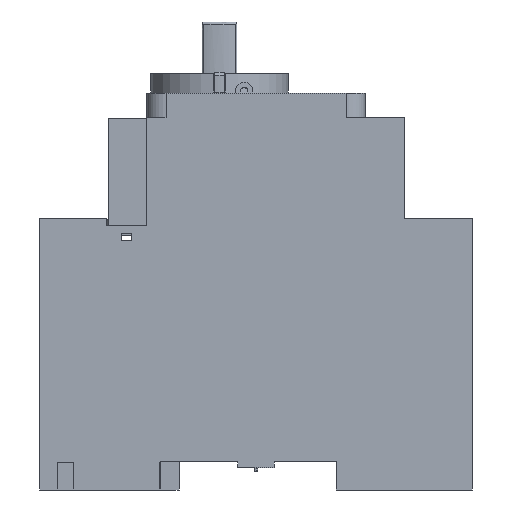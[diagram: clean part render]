
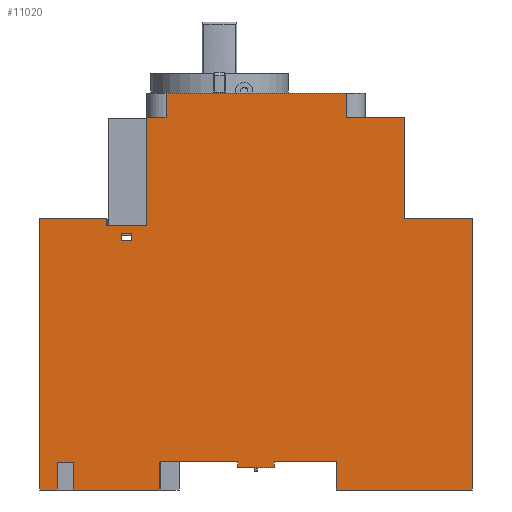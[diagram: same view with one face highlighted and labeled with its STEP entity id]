
A CAD part, left-side view. The second image highlights one B-rep face of the part: STEP entity #11020.
In plain terms, the highlighted planar face has unit normal (-1, 0, 0).
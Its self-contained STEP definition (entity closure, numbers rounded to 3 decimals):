
#1108=DIRECTION('',(0.,1.,0.));
#1109=VECTOR('',#1108,4.);
#1110=CARTESIAN_POINT('',(0.,63.,76.6));
#1111=LINE('',#1110,#1109);
#1325=DIRECTION('',(0.,0.,-1.));
#1326=VECTOR('',#1325,22.3);
#1327=CARTESIAN_POINT('',(0.,67.,76.6));
#1328=LINE('',#1327,#1326);
#1332=DIRECTION('',(0.,0.,-1.));
#1333=VECTOR('',#1332,5.);
#1334=CARTESIAN_POINT('',(0.,63.,81.6));
#1335=LINE('',#1334,#1333);
#1339=DIRECTION('',(0.,-1.,0.));
#1340=VECTOR('',#1339,37.);
#1341=CARTESIAN_POINT('',(0.,63.,81.6));
#1342=LINE('',#1341,#1340);
#1346=DIRECTION('',(0.,0.,1.));
#1347=VECTOR('',#1346,5.);
#1348=CARTESIAN_POINT('',(0.,26.,76.6));
#1349=LINE('',#1348,#1347);
#1353=DIRECTION('',(0.,0.,-1.));
#1354=VECTOR('',#1353,20.8);
#1355=CARTESIAN_POINT('',(0.,14.,76.6));
#1356=LINE('',#1355,#1354);
#1360=DIRECTION('',(0.,-1.,0.));
#1361=VECTOR('',#1360,14.);
#1362=CARTESIAN_POINT('',(0.,14.,55.8));
#1363=LINE('',#1362,#1361);
#1367=DIRECTION('',(0.,0.,-1.));
#1368=VECTOR('',#1367,55.8);
#1369=CARTESIAN_POINT('',(0.,0.,55.8));
#1370=LINE('',#1369,#1368);
#1374=DIRECTION('',(0.,1.,0.));
#1375=VECTOR('',#1374,28.);
#1376=CARTESIAN_POINT('',(0.,0.,0.));
#1377=LINE('',#1376,#1375);
#1381=DIRECTION('',(0.,0.,1.));
#1382=VECTOR('',#1381,5.8);
#1383=CARTESIAN_POINT('',(0.,28.,0.));
#1384=LINE('',#1383,#1382);
#1388=DIRECTION('',(0.,1.,0.));
#1389=VECTOR('',#1388,12.8);
#1390=CARTESIAN_POINT('',(0.,28.,5.8));
#1391=LINE('',#1390,#1389);
#1395=DIRECTION('',(0.,0.,-1.));
#1396=VECTOR('',#1395,1.2);
#1397=CARTESIAN_POINT('',(0.,40.8,5.8));
#1398=LINE('',#1397,#1396);
#1402=DIRECTION('',(0.,1.,0.));
#1403=VECTOR('',#1402,7.4);
#1404=CARTESIAN_POINT('',(0.,40.8,4.6));
#1405=LINE('',#1404,#1403);
#1409=DIRECTION('',(0.,0.,1.));
#1410=VECTOR('',#1409,1.2);
#1411=CARTESIAN_POINT('',(0.,48.2,4.6));
#1412=LINE('',#1411,#1410);
#1416=DIRECTION('',(0.,0.,1.));
#1417=VECTOR('',#1416,0.1);
#1418=CARTESIAN_POINT('',(0.,64.2,5.7));
#1419=LINE('',#1418,#1417);
#1423=DIRECTION('',(0.,1.,0.));
#1424=VECTOR('',#1423,0.199);
#1425=CARTESIAN_POINT('',(0.,64.2,5.7));
#1426=LINE('',#1425,#1424);
#1430=DIRECTION('',(0.,0.,1.));
#1431=VECTOR('',#1430,5.7);
#1432=CARTESIAN_POINT('',(0.,64.399,0.));
#1433=LINE('',#1432,#1431);
#1437=DIRECTION('',(0.,1.,0.));
#1438=VECTOR('',#1437,17.651);
#1439=CARTESIAN_POINT('',(0.,64.399,0.));
#1440=LINE('',#1439,#1438);
#1444=DIRECTION('',(0.,0.,1.));
#1445=VECTOR('',#1444,5.7);
#1446=CARTESIAN_POINT('',(0.,82.05,0.));
#1447=LINE('',#1446,#1445);
#1451=DIRECTION('',(0.,1.,0.));
#1452=VECTOR('',#1451,3.3);
#1453=CARTESIAN_POINT('',(0.,82.05,5.7));
#1454=LINE('',#1453,#1452);
#1458=DIRECTION('',(0.,0.,1.));
#1459=VECTOR('',#1458,5.7);
#1460=CARTESIAN_POINT('',(0.,85.35,0.));
#1461=LINE('',#1460,#1459);
#1465=DIRECTION('',(0.,1.,0.));
#1466=VECTOR('',#1465,3.65);
#1467=CARTESIAN_POINT('',(0.,85.35,0.));
#1468=LINE('',#1467,#1466);
#1472=DIRECTION('',(0.,0.,1.));
#1473=VECTOR('',#1472,55.8);
#1474=CARTESIAN_POINT('',(0.,89.,0.));
#1475=LINE('',#1474,#1473);
#1479=DIRECTION('',(0.,-1.,0.));
#1480=VECTOR('',#1479,13.8);
#1481=CARTESIAN_POINT('',(0.,89.,55.8));
#1482=LINE('',#1481,#1480);
#1486=DIRECTION('',(0.,0.,-1.));
#1487=VECTOR('',#1486,1.5);
#1488=CARTESIAN_POINT('',(0.,75.2,55.8));
#1489=LINE('',#1488,#1487);
#1493=DIRECTION('',(0.,1.,0.));
#1494=VECTOR('',#1493,8.2);
#1495=CARTESIAN_POINT('',(0.,67.,54.3));
#1496=LINE('',#1495,#1494);
#1500=DIRECTION('',(0.,-1.,0.));
#1501=VECTOR('',#1500,2.2);
#1502=CARTESIAN_POINT('',(0.,72.2,51.2));
#1503=LINE('',#1502,#1501);
#1507=DIRECTION('',(0.,0.,1.));
#1508=VECTOR('',#1507,1.6);
#1509=CARTESIAN_POINT('',(0.,70.,51.2));
#1510=LINE('',#1509,#1508);
#1514=DIRECTION('',(0.,1.,0.));
#1515=VECTOR('',#1514,2.2);
#1516=CARTESIAN_POINT('',(0.,70.,52.8));
#1517=LINE('',#1516,#1515);
#1521=DIRECTION('',(0.,0.,-1.));
#1522=VECTOR('',#1521,1.6);
#1523=CARTESIAN_POINT('',(0.,72.2,52.8));
#1524=LINE('',#1523,#1522);
#1602=DIRECTION('',(0.,1.,0.));
#1603=VECTOR('',#1602,12.);
#1604=CARTESIAN_POINT('',(0.,14.,76.6));
#1605=LINE('',#1604,#1603);
#4445=DIRECTION('',(0.,-1.,0.));
#4446=VECTOR('',#4445,16.);
#4447=CARTESIAN_POINT('',(0.,64.2,5.8));
#4448=LINE('',#4447,#4446);
#8222=CARTESIAN_POINT('',(0.,89.,0.));
#8223=CARTESIAN_POINT('',(0.,89.,55.8));
#8224=VERTEX_POINT('',#8222);
#8225=VERTEX_POINT('',#8223);
#8226=CARTESIAN_POINT('',(0.,14.,76.6));
#8227=CARTESIAN_POINT('',(0.,14.,55.8));
#8228=VERTEX_POINT('',#8226);
#8229=VERTEX_POINT('',#8227);
#8230=CARTESIAN_POINT('',(0.,0.,55.8));
#8231=VERTEX_POINT('',#8230);
#8232=CARTESIAN_POINT('',(0.,0.,0.));
#8233=VERTEX_POINT('',#8232);
#8298=CARTESIAN_POINT('',(0.,28.,0.));
#8299=CARTESIAN_POINT('',(0.,28.,5.8));
#8300=VERTEX_POINT('',#8298);
#8301=VERTEX_POINT('',#8299);
#8302=CARTESIAN_POINT('',(0.,40.8,5.8));
#8303=VERTEX_POINT('',#8302);
#8304=CARTESIAN_POINT('',(0.,40.8,4.6));
#8305=VERTEX_POINT('',#8304);
#8306=CARTESIAN_POINT('',(0.,48.2,4.6));
#8307=VERTEX_POINT('',#8306);
#8308=CARTESIAN_POINT('',(0.,48.2,5.8));
#8309=VERTEX_POINT('',#8308);
#8338=CARTESIAN_POINT('',(0.,63.,81.6));
#8339=CARTESIAN_POINT('',(0.,63.,76.6));
#8340=VERTEX_POINT('',#8338);
#8341=VERTEX_POINT('',#8339);
#8342=CARTESIAN_POINT('',(0.,26.,81.6));
#8343=VERTEX_POINT('',#8342);
#8362=CARTESIAN_POINT('',(0.,26.,76.6));
#8363=VERTEX_POINT('',#8362);
#8996=CARTESIAN_POINT('',(0.,64.2,5.8));
#8998=VERTEX_POINT('',#8996);
#9349=CARTESIAN_POINT('',(0.,64.2,5.7));
#9350=CARTESIAN_POINT('',(0.,64.399,5.7));
#9351=VERTEX_POINT('',#9349);
#9352=VERTEX_POINT('',#9350);
#9353=CARTESIAN_POINT('',(0.,82.05,5.7));
#9354=CARTESIAN_POINT('',(0.,85.35,5.7));
#9355=VERTEX_POINT('',#9353);
#9356=VERTEX_POINT('',#9354);
#9357=CARTESIAN_POINT('',(0.,64.399,0.));
#9358=VERTEX_POINT('',#9357);
#9359=CARTESIAN_POINT('',(0.,82.05,0.));
#9360=VERTEX_POINT('',#9359);
#9361=CARTESIAN_POINT('',(0.,85.35,0.));
#9362=VERTEX_POINT('',#9361);
#9631=CARTESIAN_POINT('',(0.,67.,76.6));
#9632=CARTESIAN_POINT('',(0.,67.,54.3));
#9633=VERTEX_POINT('',#9631);
#9634=VERTEX_POINT('',#9632);
#9635=CARTESIAN_POINT('',(0.,75.2,55.8));
#9636=CARTESIAN_POINT('',(0.,75.2,54.3));
#9637=VERTEX_POINT('',#9635);
#9638=VERTEX_POINT('',#9636);
#9667=CARTESIAN_POINT('',(0.,72.2,51.2));
#9668=CARTESIAN_POINT('',(0.,70.,51.2));
#9669=VERTEX_POINT('',#9667);
#9670=VERTEX_POINT('',#9668);
#9671=CARTESIAN_POINT('',(0.,70.,52.8));
#9672=VERTEX_POINT('',#9671);
#9673=CARTESIAN_POINT('',(0.,72.2,52.8));
#9674=VERTEX_POINT('',#9673);
#10954=CARTESIAN_POINT('',(0.,0.,0.));
#10955=DIRECTION('',(1.,0.,0.));
#10956=DIRECTION('',(0.,0.,-1.));
#10957=AXIS2_PLACEMENT_3D('',#10954,#10955,#10956);
#10958=PLANE('',#10957);
#10959=ORIENTED_EDGE('',*,*,#10809,.F.);
#10960=ORIENTED_EDGE('',*,*,#10764,.F.);
#10961=ORIENTED_EDGE('',*,*,#10751,.F.);
#10962=ORIENTED_EDGE('',*,*,#9946,.T.);
#10964=ORIENTED_EDGE('',*,*,#10963,.F.);
#10966=ORIENTED_EDGE('',*,*,#10965,.F.);
#10968=ORIENTED_EDGE('',*,*,#10967,.T.);
#10970=ORIENTED_EDGE('',*,*,#10969,.T.);
#10972=ORIENTED_EDGE('',*,*,#10971,.T.);
#10974=ORIENTED_EDGE('',*,*,#10973,.T.);
#10976=ORIENTED_EDGE('',*,*,#10975,.T.);
#10978=ORIENTED_EDGE('',*,*,#10977,.T.);
#10980=ORIENTED_EDGE('',*,*,#10979,.T.);
#10982=ORIENTED_EDGE('',*,*,#10981,.T.);
#10984=ORIENTED_EDGE('',*,*,#10983,.T.);
#10986=ORIENTED_EDGE('',*,*,#10985,.F.);
#10988=ORIENTED_EDGE('',*,*,#10987,.F.);
#10990=ORIENTED_EDGE('',*,*,#10989,.T.);
#10992=ORIENTED_EDGE('',*,*,#10991,.F.);
#10994=ORIENTED_EDGE('',*,*,#10993,.T.);
#10996=ORIENTED_EDGE('',*,*,#10995,.T.);
#10998=ORIENTED_EDGE('',*,*,#10997,.T.);
#11000=ORIENTED_EDGE('',*,*,#10999,.F.);
#11002=ORIENTED_EDGE('',*,*,#11001,.T.);
#11004=ORIENTED_EDGE('',*,*,#11003,.T.);
#11006=ORIENTED_EDGE('',*,*,#11005,.T.);
#11007=ORIENTED_EDGE('',*,*,#10880,.T.);
#11008=ORIENTED_EDGE('',*,*,#10822,.F.);
#11009=EDGE_LOOP('',(#10959,#10960,#10961,#10962,#10964,#10966,#10968,#10970,
#10972,#10974,#10976,#10978,#10980,#10982,#10984,#10986,#10988,#10990,#10992,
#10994,#10996,#10998,#11000,#11002,#11004,#11006,#11007,#11008));
#11010=FACE_OUTER_BOUND('',#11009,.F.);
#11011=ORIENTED_EDGE('',*,*,#10929,.T.);
#11013=ORIENTED_EDGE('',*,*,#11012,.T.);
#11015=ORIENTED_EDGE('',*,*,#11014,.T.);
#11017=ORIENTED_EDGE('',*,*,#11016,.T.);
#11018=EDGE_LOOP('',(#11011,#11013,#11015,#11017));
#11019=FACE_BOUND('',#11018,.F.);
#9946=EDGE_CURVE('',#8340,#8343,#1342,.T.);
#10751=EDGE_CURVE('',#8340,#8341,#1335,.T.);
#10764=EDGE_CURVE('',#8341,#9633,#1111,.T.);
#10809=EDGE_CURVE('',#9633,#9634,#1328,.T.);
#10822=EDGE_CURVE('',#9634,#9638,#1496,.T.);
#10880=EDGE_CURVE('',#9637,#9638,#1489,.T.);
#10929=EDGE_CURVE('',#9669,#9670,#1503,.T.);
#10963=EDGE_CURVE('',#8363,#8343,#1349,.T.);
#10965=EDGE_CURVE('',#8228,#8363,#1605,.T.);
#10967=EDGE_CURVE('',#8228,#8229,#1356,.T.);
#10969=EDGE_CURVE('',#8229,#8231,#1363,.T.);
#10971=EDGE_CURVE('',#8231,#8233,#1370,.T.);
#10973=EDGE_CURVE('',#8233,#8300,#1377,.T.);
#10975=EDGE_CURVE('',#8300,#8301,#1384,.T.);
#10977=EDGE_CURVE('',#8301,#8303,#1391,.T.);
#10979=EDGE_CURVE('',#8303,#8305,#1398,.T.);
#10981=EDGE_CURVE('',#8305,#8307,#1405,.T.);
#10983=EDGE_CURVE('',#8307,#8309,#1412,.T.);
#10985=EDGE_CURVE('',#8998,#8309,#4448,.T.);
#10987=EDGE_CURVE('',#9351,#8998,#1419,.T.);
#10989=EDGE_CURVE('',#9351,#9352,#1426,.T.);
#10991=EDGE_CURVE('',#9358,#9352,#1433,.T.);
#10993=EDGE_CURVE('',#9358,#9360,#1440,.T.);
#10995=EDGE_CURVE('',#9360,#9355,#1447,.T.);
#10997=EDGE_CURVE('',#9355,#9356,#1454,.T.);
#10999=EDGE_CURVE('',#9362,#9356,#1461,.T.);
#11001=EDGE_CURVE('',#9362,#8224,#1468,.T.);
#11003=EDGE_CURVE('',#8224,#8225,#1475,.T.);
#11005=EDGE_CURVE('',#8225,#9637,#1482,.T.);
#11012=EDGE_CURVE('',#9670,#9672,#1510,.T.);
#11014=EDGE_CURVE('',#9672,#9674,#1517,.T.);
#11016=EDGE_CURVE('',#9674,#9669,#1524,.T.);
#11020=ADVANCED_FACE('',(#11010,#11019),#10958,.F.);
